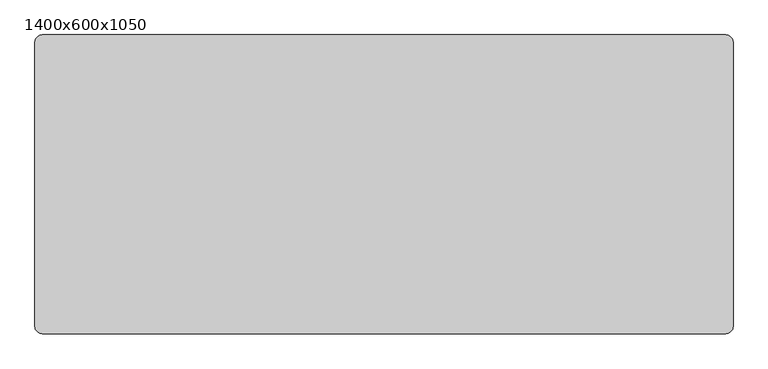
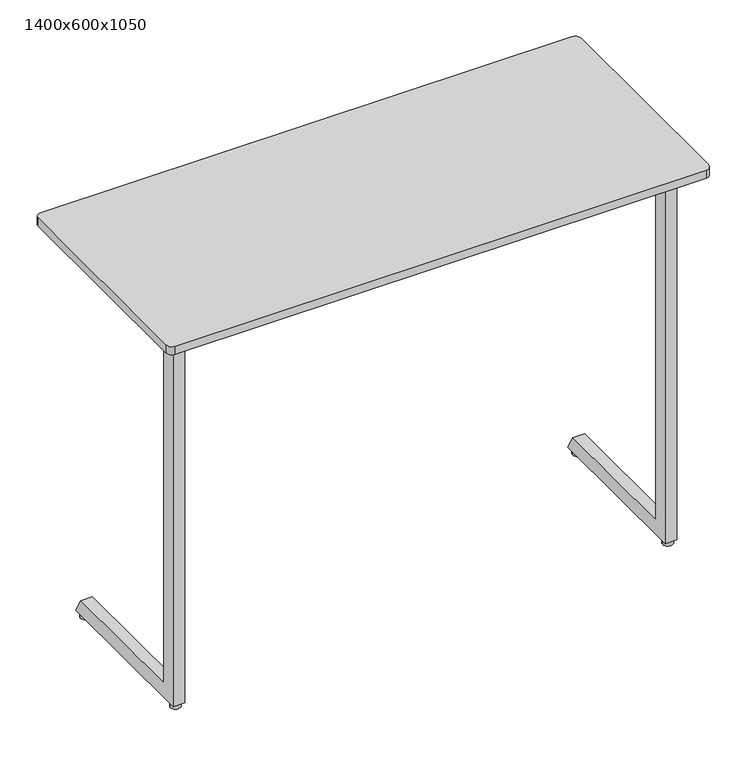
"""IFC4 building model written with IfcOpenShell, lengths in millimetres: furniture geometry, Trivia Light : 1400x600x1050."""

from ifc_helpers import new_model, si_unit, point, frame, frame_2d, origin, origin_with_axes, place, context, project, spatial, polyline, circle_curve, trimmed, segment, composite_curve, outline, extrude, source, transform, mapped, element, save


def furniture_1400x600x1050_962015f3(model_context):
    return source(origin(), model_context, "Body", "SweptSolid", [
        extrude(outline(polyline([(484.5100173, 1028.0), (469.9996059, 996.4981092), (104.0, 996.4977978), (104.0, 1028.0), (484.5100173, 1028.0)])), frame((-564.7535601, 0.0, 0.0), z_axis=(1.0, 0.0, 0.0), x_axis=(0.0, 1.0, 0.0)), (0.0, 0.0, 1.0), 30.0),
        extrude(outline(polyline([(1023.7997437, -567.7502136), (1000.730957, -567.7502136), (1000.730957, -599.8065042), (1005.0394353, -611.6439509), (1002.2203574, -612.6700113), (997.730957, -600.3354852), (997.730957, -564.7502136), (1023.7997437, -564.7502136), (1023.7997437, -567.7502136)])), frame((0.0, 265.0, 0.0), z_axis=(0.0, 1.0, 0.0), x_axis=(0.0, 0.0, 1.0)), (0.0, 0.0, 1.0), 30.0),
        extrude(outline(polyline([(1023.7997437, 567.7535601), (1023.7997437, 564.7535601), (997.730957, 564.7535601), (997.730957, 600.3388316), (1002.2203574, 612.6733577), (1005.0394353, 611.6472973), (1000.730957, 599.8098507), (1000.730957, 567.7535601), (1023.7997437, 567.7535601)])), frame((0.0, 265.0, 0.0), z_axis=(0.0, 1.0, 0.0), x_axis=(0.0, 0.0, 1.0)), (0.0, 0.0, 1.0), 30.0),
        extrude(outline(composite_curve([segment(trimmed(circle_curve(frame_2d((-635.0, 85.0)), 13.0), [point((-648.0, 85.0))], [point((-622.0, 85.0))], False, "CARTESIAN"), True, "CONTINUOUS"), segment(trimmed(circle_curve(frame_2d((-635.0, 85.0)), 13.0), [point((-622.0, 85.0))], [point((-648.0, 85.0))], False, "CARTESIAN"), True, "CONTINUOUS")], self_intersect=False)), origin_with_axes(), (0.0, 0.0, 1.0), 13.0905762),
        extrude(outline(composite_curve([segment(trimmed(circle_curve(frame_2d((635.0, 85.0)), 13.0), [point((622.0, 85.0))], [point((648.0, 85.0))], False, "CARTESIAN"), True, "CONTINUOUS"), segment(trimmed(circle_curve(frame_2d((635.0, 85.0)), 13.0), [point((648.0, 85.0))], [point((622.0, 85.0))], False, "CARTESIAN"), True, "CONTINUOUS")], self_intersect=False)), origin_with_axes(), (0.0, 0.0, 1.0), 13.0905762),
        extrude(outline(composite_curve([segment(trimmed(circle_curve(frame_2d((635.0, 487.5)), 13.0), [point((622.0, 487.5))], [point((648.0, 487.5))], False, "CARTESIAN"), True, "CONTINUOUS"), segment(trimmed(circle_curve(frame_2d((635.0, 487.5)), 13.0), [point((648.0, 487.5))], [point((622.0, 487.5))], False, "CARTESIAN"), True, "CONTINUOUS")], self_intersect=False)), origin_with_axes(), (0.0, 0.0, 1.0), 13.0905762),
        extrude(outline(composite_curve([segment(trimmed(circle_curve(frame_2d((-635.0, 487.5)), 13.0), [point((-648.0, 487.5))], [point((-622.0, 487.5))], False, "CARTESIAN"), True, "CONTINUOUS"), segment(trimmed(circle_curve(frame_2d((-635.0, 487.5)), 13.0), [point((-622.0, 487.5))], [point((-648.0, 487.5))], False, "CARTESIAN"), True, "CONTINUOUS")], self_intersect=False)), origin_with_axes(), (0.0, 0.0, 1.0), 13.0905762),
        extrude(outline(polyline([(484.5100173, 1028.0), (469.9996059, 996.4981092), (104.0, 996.4977978), (104.0, 1028.0), (484.5100173, 1028.0)])), frame((534.7535601, 0.0, 0.0), z_axis=(1.0, 0.0, 0.0), x_axis=(0.0, 1.0, 0.0)), (0.0, 0.0, 1.0), 30.0),
        extrude(outline(composite_curve([segment(trimmed(circle_curve(frame_2d((685.0, 585.0)), 15.0), [point((685.0, 600.0))], [point((700.0, 585.0))], False, "CARTESIAN"), True, "CONTINUOUS"), segment(polyline([(700.0, 585.0), (700.0, 15.0)]), True, "CONTINUOUS"), segment(trimmed(circle_curve(frame_2d((685.0, 15.0)), 15.0), [point((700.0, 15.0))], [point((685.0, 0.0))], False, "CARTESIAN"), True, "CONTINUOUS"), segment(polyline([(685.0, 0.0), (-685.0, 0.0)]), True, "CONTINUOUS"), segment(trimmed(circle_curve(frame_2d((-685.0, 15.0)), 15.0), [point((-685.0, 0.0))], [point((-700.0, 15.0))], False, "CARTESIAN"), True, "CONTINUOUS"), segment(polyline([(-700.0, 15.0), (-700.0, 585.0)]), True, "CONTINUOUS"), segment(trimmed(circle_curve(frame_2d((-685.0, 585.0)), 15.0), [point((-700.0, 585.0))], [point((-685.0, 600.0))], False, "CARTESIAN"), True, "CONTINUOUS"), segment(polyline([(-685.0, 600.0), (685.0, 600.0)]), True, "CONTINUOUS")], self_intersect=False)), frame((0.0, 0.0, 1028.0), z_axis=(0.0, 0.0, 1.0), x_axis=(1.0, 0.0, 0.0)), (0.0, 0.0, 1.0), 22.0),
        extrude(outline(polyline([(619.7534307, 104.0), (619.7534307, 74.0), (-619.7534307, 74.0), (-619.7534307, 104.0), (619.7534307, 104.0)])), frame((0.0, 0.0, 986.0), z_axis=(0.0, 0.0, 1.0), x_axis=(1.0, 0.0, 0.0)), (0.0, 0.0, 1.0), 42.0),
        extrude(outline(polyline([(112.0, 51.5905762), (482.1448423, 51.5905762), (504.8944033, 11.5905762), (70.0, 11.5905762), (70.0, 1028.0), (112.0, 1028.0), (112.0, 51.5905762)])), frame((-649.7535601, 0.0, 0.0), z_axis=(1.0, 0.0, 0.0), x_axis=(0.0, 1.0, 0.0)), (0.0, 0.0, 1.0), 30.0001294),
        extrude(outline(polyline([(112.0, 51.5905762), (482.1448423, 51.5905762), (504.8944033, 11.5905762), (70.0, 11.5905762), (70.0, 1028.0), (112.0, 1028.0), (112.0, 51.5905762)])), frame((619.7534307, 0.0, 0.0), z_axis=(1.0, 0.0, 0.0), x_axis=(0.0, 1.0, 0.0)), (0.0, 0.0, 1.0), 30.0001294),
    ])


if __name__ == "__main__":
    model = new_model("IFC4")
    model_context = context("Model", 3, world=origin())
    ifc_project = project(units=[si_unit("LENGTHUNIT", "METRE", prefix="MILLI")], contexts=[model_context])
    site = spatial("IfcSite", under=ifc_project)
    building = spatial("IfcBuilding", under=site)
    placement = place(None, origin())
    furniture_1400x600x1050_shape = furniture_1400x600x1050_962015f3(model_context)
    element("IfcFurniture", 1, ObjectType="Trivia Light : 1400x600x1050", at=placement, inside=building, context=model_context, shape_type="MappedRepresentation", body=[
        mapped(furniture_1400x600x1050_shape, transform((0.0, 0.0, 0.0), x_axis=(1.0, 0.0, 0.0), y_axis=(0.0, 1.0, 0.0), z_axis=(0.0, 0.0, 1.0))),
    ])
    save(model, "model.ifc")
